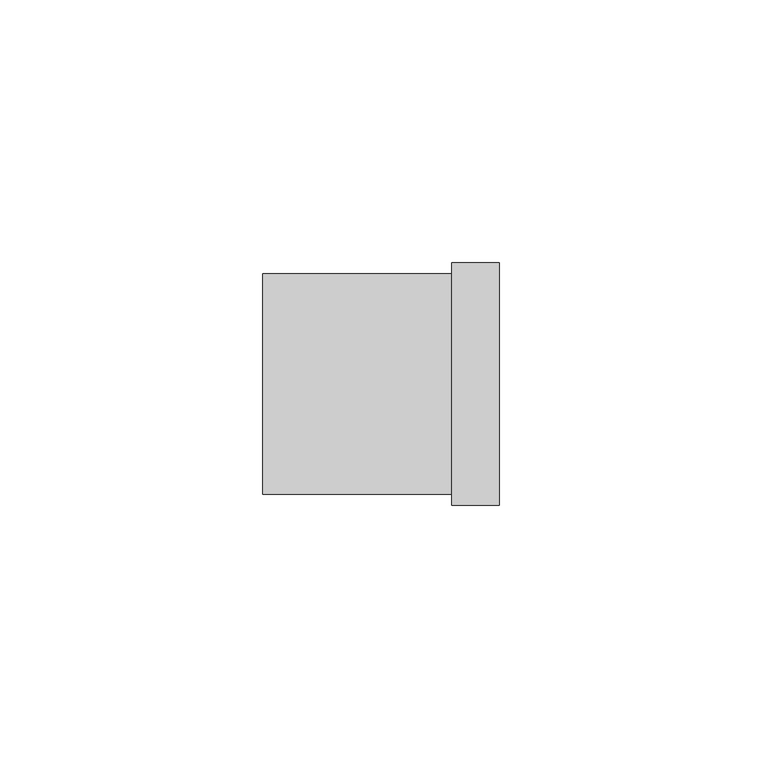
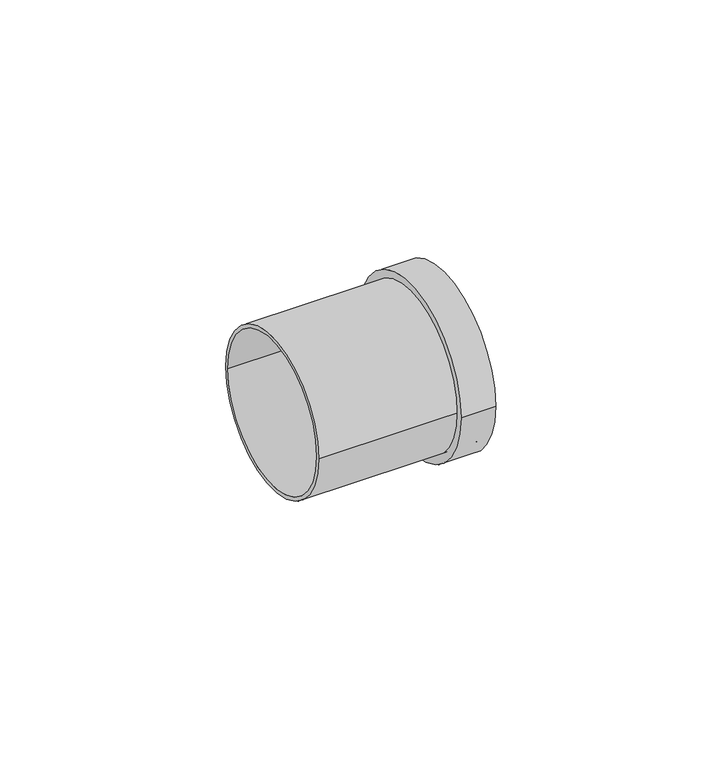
"""IFC4 building model written with IfcOpenShell, lengths in millimetres: pipe fitting geometry, Superdrain HT pipe socket : Superdrain HT pipe socket."""

from ifc_helpers import new_model, si_unit, point, frame, origin, origin_2d, place, context, project, spatial, circle_curve, trimmed, segment, composite_curve, outline, extrude, source, transform, mapped, element, save


def pipe_fitting_c7a28f41(model_context):
    return source(origin(), model_context, "Body", "SweptSolid", [
        extrude(outline(composite_curve([segment(trimmed(circle_curve(origin_2d(), 21.0), [point((21.0, 0.0))], [point((-21.0, 0.0))], False, "CARTESIAN"), True, "CONTINUOUS"), segment(trimmed(circle_curve(origin_2d(), 21.0), [point((-21.0, 0.0))], [point((21.0, 0.0))], False, "CARTESIAN"), True, "CONTINUOUS")], self_intersect=False), holes=[composite_curve([segment(trimmed(circle_curve(origin_2d(), 20.0), [point((20.0, 0.0))], [point((-20.0, 0.0))], True, "CARTESIAN"), True, "CONTINUOUS"), segment(trimmed(circle_curve(origin_2d(), 20.0), [point((-20.0, 0.0))], [point((20.0, 0.0))], True, "CARTESIAN"), True, "CONTINUOUS")], self_intersect=False)]), frame((0.0, 0.0, 0.0), z_axis=(1.0, 0.0, 0.0), x_axis=(0.0, 1.0, 0.0)), (0.0, 0.0, 1.0), 45.0),
        extrude(outline(composite_curve([segment(trimmed(circle_curve(origin_2d(), 23.1), [point((23.1, 0.0))], [point((-23.1, 0.0))], False, "CARTESIAN"), True, "CONTINUOUS"), segment(trimmed(circle_curve(origin_2d(), 23.1), [point((-23.1, 0.0))], [point((23.1, 0.0))], False, "CARTESIAN"), True, "CONTINUOUS")], self_intersect=False), holes=[composite_curve([segment(trimmed(circle_curve(origin_2d(), 20.0), [point((20.0, 0.0))], [point((-20.0, 0.0))], True, "CARTESIAN"), True, "CONTINUOUS"), segment(trimmed(circle_curve(origin_2d(), 20.0), [point((-20.0, 0.0))], [point((20.0, 0.0))], True, "CARTESIAN"), True, "CONTINUOUS")], self_intersect=False)]), frame((36.0, 0.0, 0.0), z_axis=(1.0, 0.0, 0.0), x_axis=(0.0, 1.0, 0.0)), (0.0, 0.0, 1.0), 9.0),
    ])


if __name__ == "__main__":
    model = new_model("IFC4")
    model_context = context("Model", 3, world=origin())
    ifc_project = project(units=[si_unit("LENGTHUNIT", "METRE", prefix="MILLI")], contexts=[model_context])
    site = spatial("IfcSite", under=ifc_project)
    building = spatial("IfcBuilding", under=site)
    placement = place(None, origin())
    pipe_fitting_shape = pipe_fitting_c7a28f41(model_context)
    element("IfcPipeFitting", 1, ObjectType="Superdrain HT pipe socket : Superdrain HT pipe socket", at=placement, inside=building, context=model_context, shape_type="MappedRepresentation", body=[
        mapped(pipe_fitting_shape, transform((0.0, 0.0, 0.0), x_axis=(1.0, 0.0, 0.0), y_axis=(0.0, 1.0, 0.0), z_axis=(0.0, 0.0, 1.0))),
    ])
    save(model, "model.ifc")
